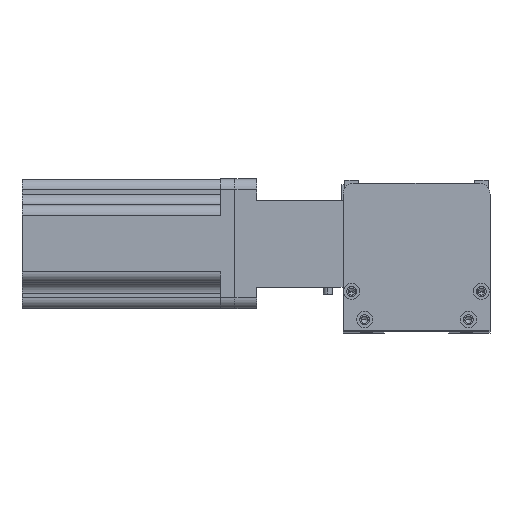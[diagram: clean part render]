
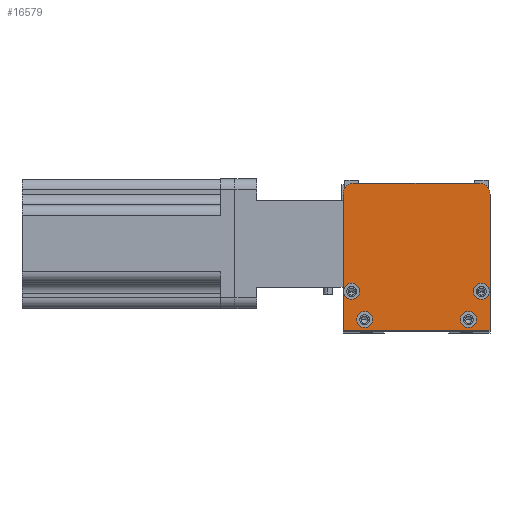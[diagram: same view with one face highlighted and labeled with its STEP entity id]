
A CAD part, top view. The second image highlights one B-rep face of the part: STEP entity #16579.
In plain terms, the highlighted planar face has unit normal (0, 0, 1) as drawn and (0, 0, -1) by its records, which use the part's own axes.
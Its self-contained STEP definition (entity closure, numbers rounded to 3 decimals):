
#210 = AXIS2_PLACEMENT_3D ( 'NONE', #5618, #19261, #7609 ) ;
#269 = DIRECTION ( 'NONE',  ( 0., 0., -1. ) ) ;
#330 = AXIS2_PLACEMENT_3D ( 'NONE', #23149, #9619, #21227 ) ;
#357 = ORIENTED_EDGE ( 'NONE', *, *, #9932, .T. ) ;
#1520 = VECTOR ( 'NONE', #21131, 1000. ) ;
#1716 = ORIENTED_EDGE ( 'NONE', *, *, #7422, .F. ) ;
#1842 = VERTEX_POINT ( 'NONE', #22280 ) ;
#1968 = ORIENTED_EDGE ( 'NONE', *, *, #8459, .F. ) ;
#1999 = DIRECTION ( 'NONE',  ( 0., 0., -1. ) ) ;
#2050 = ORIENTED_EDGE ( 'NONE', *, *, #18219, .F. ) ;
#2437 = CARTESIAN_POINT ( 'NONE',  ( 68., 0., 0. ) ) ;
#2733 = ORIENTED_EDGE ( 'NONE', *, *, #10368, .F. ) ;
#3323 = VERTEX_POINT ( 'NONE', #12954 ) ;
#3636 = EDGE_CURVE ( 'NONE', #14661, #23051, #3992, .T. ) ;
#3720 = CARTESIAN_POINT ( 'NONE',  ( 0., 0., 0. ) ) ;
#3810 = VERTEX_POINT ( 'NONE', #22961 ) ;
#3992 = CIRCLE ( 'NONE', #330, 3.75 ) ;
#4037 = VERTEX_POINT ( 'NONE', #19188 ) ;
#4289 = VECTOR ( 'NONE', #18089, 1000. ) ;
#4311 = DIRECTION ( 'NONE',  ( 0., 0., -1. ) ) ;
#5066 = CIRCLE ( 'NONE', #210, 3.75 ) ;
#5500 = CIRCLE ( 'NONE', #18885, 3.75 ) ;
#5618 = CARTESIAN_POINT ( 'NONE',  ( 10., 5., 0. ) ) ;
#5769 = ORIENTED_EDGE ( 'NONE', *, *, #10016, .T. ) ;
#6183 = CARTESIAN_POINT ( 'NONE',  ( 68., 0., 0. ) ) ;
#6596 = EDGE_CURVE ( 'NONE', #23051, #14661, #5066, .T. ) ;
#6980 = CARTESIAN_POINT ( 'NONE',  ( 68., 63., 0. ) ) ;
#7004 = DIRECTION ( 'NONE',  ( 0., 0., -1. ) ) ;
#7050 = CARTESIAN_POINT ( 'NONE',  ( 4., 18., 0. ) ) ;
#7404 = EDGE_CURVE ( 'NONE', #7660, #10614, #7717, .T. ) ;
#7422 = EDGE_CURVE ( 'NONE', #17871, #1842, #5500, .T. ) ;
#7609 = DIRECTION ( 'NONE',  ( -1., 0., 0. ) ) ;
#7620 = CIRCLE ( 'NONE', #13507, 3.75 ) ;
#7660 = VERTEX_POINT ( 'NONE', #10746 ) ;
#7673 = DIRECTION ( 'NONE',  ( 1., 0., 0. ) ) ;
#7717 = CIRCLE ( 'NONE', #16319, 3.75 ) ;
#7811 = AXIS2_PLACEMENT_3D ( 'NONE', #9711, #23248, #11693 ) ;
#7856 = AXIS2_PLACEMENT_3D ( 'NONE', #20866, #9244, #22778 ) ;
#8459 = EDGE_CURVE ( 'NONE', #10614, #7660, #12648, .T. ) ;
#8557 = CARTESIAN_POINT ( 'NONE',  ( 68., 68., 0. ) ) ;
#8670 = ORIENTED_EDGE ( 'NONE', *, *, #6596, .F. ) ;
#8799 = ORIENTED_EDGE ( 'NONE', *, *, #15416, .F. ) ;
#9038 = DIRECTION ( 'NONE',  ( -1., 0., 0. ) ) ;
#9244 = DIRECTION ( 'NONE',  ( 0., 0., -1. ) ) ;
#9488 = CARTESIAN_POINT ( 'NONE',  ( 13.75, 5., 0. ) ) ;
#9619 = DIRECTION ( 'NONE',  ( 0., 0., -1. ) ) ;
#9711 = CARTESIAN_POINT ( 'NONE',  ( 58., 5., 0. ) ) ;
#9932 = EDGE_CURVE ( 'NONE', #18931, #22496, #15967, .T. ) ;
#10016 = EDGE_CURVE ( 'NONE', #3323, #19676, #18075, .T. ) ;
#10196 = CARTESIAN_POINT ( 'NONE',  ( 67.75, 18., 0. ) ) ;
#10273 = FACE_BOUND ( 'NONE', #16584, .T. ) ;
#10331 = ORIENTED_EDGE ( 'NONE', *, *, #7404, .F. ) ;
#10368 = EDGE_CURVE ( 'NONE', #16893, #22704, #15300, .T. ) ;
#10550 = CIRCLE ( 'NONE', #23746, 3.75 ) ;
#10614 = VERTEX_POINT ( 'NONE', #20690 ) ;
#10627 = DIRECTION ( 'NONE',  ( 0., 0., -1. ) ) ;
#10746 = CARTESIAN_POINT ( 'NONE',  ( 61.75, 5., 0. ) ) ;
#10968 = AXIS2_PLACEMENT_3D ( 'NONE', #3720, #19331, #7673 ) ;
#11057 = EDGE_LOOP ( 'NONE', ( #1968, #10331 ) ) ;
#11113 = CIRCLE ( 'NONE', #16945, 3.75 ) ;
#11182 = VECTOR ( 'NONE', #16321, 1000. ) ;
#11362 = EDGE_CURVE ( 'NONE', #22704, #19676, #23083, .T. ) ;
#11693 = DIRECTION ( 'NONE',  ( -1., 0., 0. ) ) ;
#12055 = CARTESIAN_POINT ( 'NONE',  ( 58., 5., 0. ) ) ;
#12172 = EDGE_CURVE ( 'NONE', #3810, #4037, #7620, .T. ) ;
#12447 = LINE ( 'NONE', #8557, #11182 ) ;
#12648 = CIRCLE ( 'NONE', #7811, 3.75 ) ;
#12699 = ORIENTED_EDGE ( 'NONE', *, *, #18844, .F. ) ;
#12954 = CARTESIAN_POINT ( 'NONE',  ( 63., 68., 0. ) ) ;
#13507 = AXIS2_PLACEMENT_3D ( 'NONE', #22216, #10627, #24158 ) ;
#13748 = CARTESIAN_POINT ( 'NONE',  ( 64., 18., 0. ) ) ;
#13986 = DIRECTION ( 'NONE',  ( -1., 0., 0. ) ) ;
#14661 = VERTEX_POINT ( 'NONE', #9488 ) ;
#14831 = FACE_OUTER_BOUND ( 'NONE', #23663, .T. ) ;
#14924 = EDGE_CURVE ( 'NONE', #3323, #22496, #12447, .T. ) ;
#15300 = LINE ( 'NONE', #2437, #4289 ) ;
#15416 = EDGE_CURVE ( 'NONE', #1842, #17871, #10550, .T. ) ;
#15555 = CARTESIAN_POINT ( 'NONE',  ( 6.25, 5., 0. ) ) ;
#15715 = DIRECTION ( 'NONE',  ( -1., 0., 0. ) ) ;
#15947 = DIRECTION ( 'NONE',  ( 0., 1., 0. ) ) ;
#15967 = CIRCLE ( 'NONE', #23957, 5. ) ;
#16044 = CARTESIAN_POINT ( 'NONE',  ( 64., 18., 0. ) ) ;
#16319 = AXIS2_PLACEMENT_3D ( 'NONE', #12055, #269, #13986 ) ;
#16321 = DIRECTION ( 'NONE',  ( -1., 0., 0. ) ) ;
#16579 = ADVANCED_FACE ( 'NONE', ( #19989, #16669, #10273, #25100, #14831 ), #25066, .F. ) ;
#16584 = EDGE_LOOP ( 'NONE', ( #8670, #20084 ) ) ;
#16669 = FACE_BOUND ( 'NONE', #24902, .T. ) ;
#16893 = VERTEX_POINT ( 'NONE', #18327 ) ;
#16945 = AXIS2_PLACEMENT_3D ( 'NONE', #7050, #20679, #9038 ) ;
#17143 = LINE ( 'NONE', #17260, #1520 ) ;
#17260 = CARTESIAN_POINT ( 'NONE',  ( 0., 0., 0. ) ) ;
#17474 = EDGE_LOOP ( 'NONE', ( #8799, #1716 ) ) ;
#17871 = VERTEX_POINT ( 'NONE', #10196 ) ;
#17983 = DIRECTION ( 'NONE',  ( -1., 0., 0. ) ) ;
#18003 = VECTOR ( 'NONE', #15947, 1000. ) ;
#18075 = CIRCLE ( 'NONE', #7856, 5. ) ;
#18089 = DIRECTION ( 'NONE',  ( 1., 0., 0. ) ) ;
#18219 = EDGE_CURVE ( 'NONE', #4037, #3810, #11113, .T. ) ;
#18327 = CARTESIAN_POINT ( 'NONE',  ( 0., 0., 0. ) ) ;
#18691 = CARTESIAN_POINT ( 'NONE',  ( 5., 63., 0. ) ) ;
#18844 = EDGE_CURVE ( 'NONE', #18931, #16893, #17143, .T. ) ;
#18885 = AXIS2_PLACEMENT_3D ( 'NONE', #16044, #4311, #17983 ) ;
#18931 = VERTEX_POINT ( 'NONE', #19533 ) ;
#19188 = CARTESIAN_POINT ( 'NONE',  ( 0.25, 18., 0. ) ) ;
#19261 = DIRECTION ( 'NONE',  ( 0., 0., -1. ) ) ;
#19331 = DIRECTION ( 'NONE',  ( 0., 0., 1. ) ) ;
#19533 = CARTESIAN_POINT ( 'NONE',  ( 0., 63., 0. ) ) ;
#19676 = VERTEX_POINT ( 'NONE', #6980 ) ;
#19989 = FACE_BOUND ( 'NONE', #17474, .T. ) ;
#20084 = ORIENTED_EDGE ( 'NONE', *, *, #3636, .F. ) ;
#20349 = ORIENTED_EDGE ( 'NONE', *, *, #11362, .F. ) ;
#20642 = DIRECTION ( 'NONE',  ( 1., 0., 0. ) ) ;
#20679 = DIRECTION ( 'NONE',  ( 0., 0., -1. ) ) ;
#20690 = CARTESIAN_POINT ( 'NONE',  ( 54.25, 5., 0. ) ) ;
#20866 = CARTESIAN_POINT ( 'NONE',  ( 63., 63., 0. ) ) ;
#21131 = DIRECTION ( 'NONE',  ( 0., -1., 0. ) ) ;
#21227 = DIRECTION ( 'NONE',  ( -1., 0., 0. ) ) ;
#21738 = CARTESIAN_POINT ( 'NONE',  ( 68., 0., 0. ) ) ;
#22216 = CARTESIAN_POINT ( 'NONE',  ( 4., 18., 0. ) ) ;
#22280 = CARTESIAN_POINT ( 'NONE',  ( 60.25, 18., 0. ) ) ;
#22496 = VERTEX_POINT ( 'NONE', #24687 ) ;
#22704 = VERTEX_POINT ( 'NONE', #21738 ) ;
#22778 = DIRECTION ( 'NONE',  ( 1., 0., 0. ) ) ;
#22961 = CARTESIAN_POINT ( 'NONE',  ( 7.75, 18., 0. ) ) ;
#23051 = VERTEX_POINT ( 'NONE', #15555 ) ;
#23083 = LINE ( 'NONE', #6183, #18003 ) ;
#23149 = CARTESIAN_POINT ( 'NONE',  ( 10., 5., 0. ) ) ;
#23248 = DIRECTION ( 'NONE',  ( 0., 0., -1. ) ) ;
#23663 = EDGE_LOOP ( 'NONE', ( #12699, #357, #24869, #5769, #20349, #2733 ) ) ;
#23745 = ORIENTED_EDGE ( 'NONE', *, *, #12172, .F. ) ;
#23746 = AXIS2_PLACEMENT_3D ( 'NONE', #13748, #1999, #15715 ) ;
#23957 = AXIS2_PLACEMENT_3D ( 'NONE', #18691, #7004, #20642 ) ;
#24158 = DIRECTION ( 'NONE',  ( -1., 0., 0. ) ) ;
#24687 = CARTESIAN_POINT ( 'NONE',  ( 5., 68., 0. ) ) ;
#24869 = ORIENTED_EDGE ( 'NONE', *, *, #14924, .F. ) ;
#24902 = EDGE_LOOP ( 'NONE', ( #2050, #23745 ) ) ;
#25066 = PLANE ( 'NONE',  #10968 ) ;
#25100 = FACE_BOUND ( 'NONE', #11057, .T. ) ;
